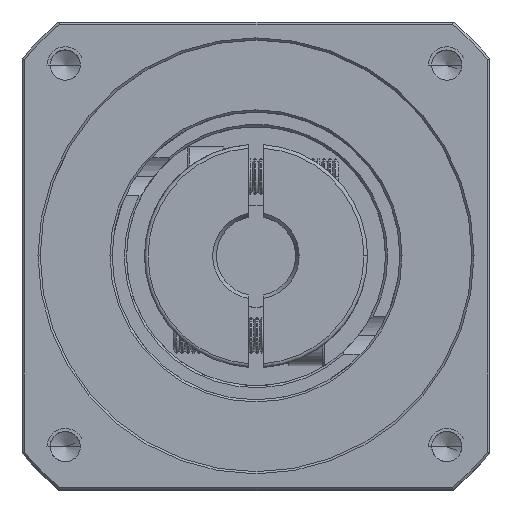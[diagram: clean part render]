
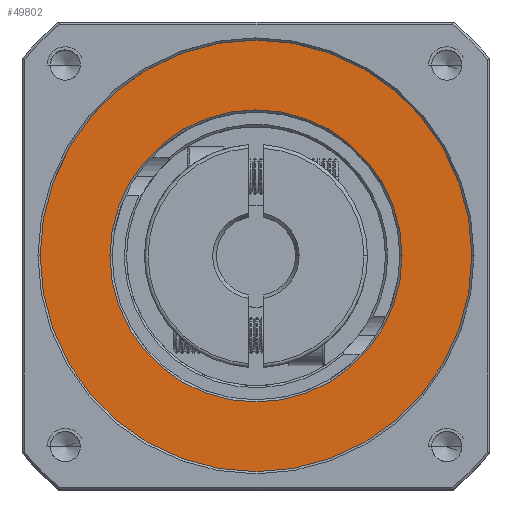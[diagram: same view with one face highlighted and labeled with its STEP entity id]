
A CAD part, top view. The second image highlights one B-rep face of the part: STEP entity #49802.
In plain terms, the highlighted planar face has unit normal (0, 0, 1).
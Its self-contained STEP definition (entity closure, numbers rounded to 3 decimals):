
#5917 = FACE_OUTER_BOUND ( 'NONE', #75974, .T. ) ;
#8129 = DIRECTION ( 'NONE',  ( 1., 0., 0. ) ) ;
#9301 = CARTESIAN_POINT ( 'NONE',  ( -41.6, 23.265, 17.333 ) ) ;
#9615 = EDGE_CURVE ( 'NONE', #29718, #53033, #107040, .T. ) ;
#9839 = FACE_BOUND ( 'NONE', #63793, .T. ) ;
#11732 = ORIENTED_EDGE ( 'NONE', *, *, #82529, .T. ) ;
#13357 = DIRECTION ( 'NONE',  ( 1., 0., 0. ) ) ;
#14074 = ORIENTED_EDGE ( 'NONE', *, *, #79602, .T. ) ;
#15375 = DIRECTION ( 'NONE',  ( 1., 0., 0. ) ) ;
#16087 = ORIENTED_EDGE ( 'NONE', *, *, #105625, .T. ) ;
#17313 = VERTEX_POINT ( 'NONE', #9301 ) ;
#21126 = CARTESIAN_POINT ( 'NONE',  ( -61.9, 23.265, 17.333 ) ) ;
#23264 = DIRECTION ( 'NONE',  ( 1., 0., 0. ) ) ;
#26911 = CIRCLE ( 'NONE', #38645, 20.3 ) ;
#28003 = CARTESIAN_POINT ( 'NONE',  ( -31.9, 23.265, 17.333 ) ) ;
#29718 = VERTEX_POINT ( 'NONE', #56257 ) ;
#30295 = AXIS2_PLACEMENT_3D ( 'NONE', #55430, #63547, #79793 ) ;
#32850 = CARTESIAN_POINT ( 'NONE',  ( -61.9, 23.265, 17.333 ) ) ;
#38645 = AXIS2_PLACEMENT_3D ( 'NONE', #21126, #63975, #13357 ) ;
#40272 = CARTESIAN_POINT ( 'NONE',  ( -61.9, 23.265, 17.333 ) ) ;
#41013 = PLANE ( 'NONE',  #63253 ) ;
#49802 = ADVANCED_FACE ( 'NONE', ( #9839, #5917 ), #41013, .T. ) ;
#53033 = VERTEX_POINT ( 'NONE', #28003 ) ;
#55430 = CARTESIAN_POINT ( 'NONE',  ( -61.9, 23.265, 17.333 ) ) ;
#56257 = CARTESIAN_POINT ( 'NONE',  ( -91.9, 23.265, 17.333 ) ) ;
#60801 = AXIS2_PLACEMENT_3D ( 'NONE', #91090, #74841, #15375 ) ;
#63253 = AXIS2_PLACEMENT_3D ( 'NONE', #40272, #100679, #23264 ) ;
#63547 = DIRECTION ( 'NONE',  ( 0., 0., 1. ) ) ;
#63793 = EDGE_LOOP ( 'NONE', ( #14074, #11732 ) ) ;
#63975 = DIRECTION ( 'NONE',  ( 0., 0., -1. ) ) ;
#71724 = CIRCLE ( 'NONE', #30295, 30. ) ;
#74841 = DIRECTION ( 'NONE',  ( 0., 0., 1. ) ) ;
#75974 = EDGE_LOOP ( 'NONE', ( #16087, #76711 ) ) ;
#76659 = CIRCLE ( 'NONE', #107517, 20.3 ) ;
#76711 = ORIENTED_EDGE ( 'NONE', *, *, #9615, .T. ) ;
#79602 = EDGE_CURVE ( 'NONE', #17313, #84025, #76659, .T. ) ;
#79793 = DIRECTION ( 'NONE',  ( 1., 0., 0. ) ) ;
#82529 = EDGE_CURVE ( 'NONE', #84025, #17313, #26911, .T. ) ;
#82701 = DIRECTION ( 'NONE',  ( 0., 0., -1. ) ) ;
#84025 = VERTEX_POINT ( 'NONE', #90935 ) ;
#90935 = CARTESIAN_POINT ( 'NONE',  ( -82.2, 23.265, 17.333 ) ) ;
#91090 = CARTESIAN_POINT ( 'NONE',  ( -61.9, 23.265, 17.333 ) ) ;
#100679 = DIRECTION ( 'NONE',  ( 0., 0., 1. ) ) ;
#105625 = EDGE_CURVE ( 'NONE', #53033, #29718, #71724, .T. ) ;
#107040 = CIRCLE ( 'NONE', #60801, 30. ) ;
#107517 = AXIS2_PLACEMENT_3D ( 'NONE', #32850, #82701, #8129 ) ;
